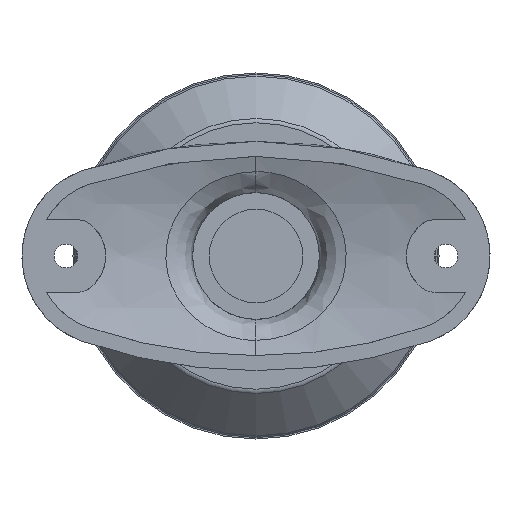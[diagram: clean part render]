
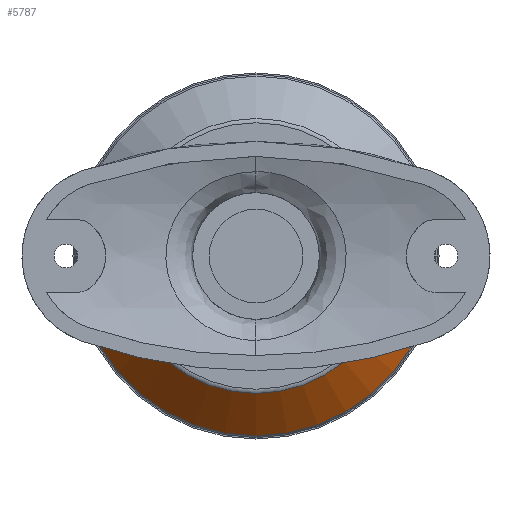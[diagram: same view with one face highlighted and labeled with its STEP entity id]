
A CAD part, front view. The second image highlights one B-rep face of the part: STEP entity #5787.
In plain terms, the highlighted conical face has half-angle 45 degrees and reference radius 22.2 mm.
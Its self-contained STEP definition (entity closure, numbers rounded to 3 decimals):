
#29 = DIRECTION ( 'NONE',  ( -1., 0., 0. ) ) ;
#161 = ORIENTED_EDGE ( 'NONE', *, *, #4372, .T. ) ;
#269 = DIRECTION ( 'NONE',  ( 0.707, 0.707, 0. ) ) ;
#460 = VERTEX_POINT ( 'NONE', #5603 ) ;
#691 = CARTESIAN_POINT ( 'NONE',  ( -22.793, 33.593, 0. ) ) ;
#799 = DIRECTION ( 'NONE',  ( -0.707, 0.707, 0. ) ) ;
#1019 = CARTESIAN_POINT ( 'NONE',  ( 0., 33., 0. ) ) ;
#1252 = CONICAL_SURFACE ( 'NONE', #1772, 22.2, 0.785 ) ;
#1254 = DIRECTION ( 'NONE',  ( 0., 1., 0. ) ) ;
#1772 = AXIS2_PLACEMENT_3D ( 'NONE', #1019, #2985, #2530 ) ;
#2175 = CARTESIAN_POINT ( 'NONE',  ( 22.2, 33., 0. ) ) ;
#2520 = ORIENTED_EDGE ( 'NONE', *, *, #2579, .T. ) ;
#2530 = DIRECTION ( 'NONE',  ( 1., 0., 0. ) ) ;
#2579 = EDGE_CURVE ( 'NONE', #3227, #6356, #2597, .T. ) ;
#2597 = CIRCLE ( 'NONE', #3422, 29.807 ) ;
#2740 = CARTESIAN_POINT ( 'NONE',  ( 0., 33.593, 0. ) ) ;
#2906 = EDGE_CURVE ( 'NONE', #460, #3227, #4630, .T. ) ;
#2985 = DIRECTION ( 'NONE',  ( 0., 1., 0. ) ) ;
#3227 = VERTEX_POINT ( 'NONE', #4338 ) ;
#3252 = LINE ( 'NONE', #4641, #5997 ) ;
#3422 = AXIS2_PLACEMENT_3D ( 'NONE', #4933, #4486, #29 ) ;
#3498 = FACE_OUTER_BOUND ( 'NONE', #4101, .T. ) ;
#4010 = AXIS2_PLACEMENT_3D ( 'NONE', #2740, #1254, #4705 ) ;
#4099 = CARTESIAN_POINT ( 'NONE',  ( -29.807, 40.607, 0. ) ) ;
#4101 = EDGE_LOOP ( 'NONE', ( #4885, #161, #5190, #2520 ) ) ;
#4320 = VERTEX_POINT ( 'NONE', #691 ) ;
#4338 = CARTESIAN_POINT ( 'NONE',  ( 29.807, 40.607, 0. ) ) ;
#4372 = EDGE_CURVE ( 'NONE', #4320, #460, #6383, .T. ) ;
#4486 = DIRECTION ( 'NONE',  ( 0., -1., 0. ) ) ;
#4630 = LINE ( 'NONE', #2175, #4926 ) ;
#4641 = CARTESIAN_POINT ( 'NONE',  ( -22.2, 33., 0. ) ) ;
#4705 = DIRECTION ( 'NONE',  ( -1., 0., 0. ) ) ;
#4885 = ORIENTED_EDGE ( 'NONE', *, *, #5484, .F. ) ;
#4926 = VECTOR ( 'NONE', #269, 1000. ) ;
#4933 = CARTESIAN_POINT ( 'NONE',  ( 0., 40.607, 0. ) ) ;
#5190 = ORIENTED_EDGE ( 'NONE', *, *, #2906, .T. ) ;
#5484 = EDGE_CURVE ( 'NONE', #4320, #6356, #3252, .T. ) ;
#5603 = CARTESIAN_POINT ( 'NONE',  ( 22.793, 33.593, 0. ) ) ;
#5787 = ADVANCED_FACE ( 'NONE', ( #3498 ), #1252, .T. ) ;
#5997 = VECTOR ( 'NONE', #799, 1000. ) ;
#6356 = VERTEX_POINT ( 'NONE', #4099 ) ;
#6383 = CIRCLE ( 'NONE', #4010, 22.793 ) ;
